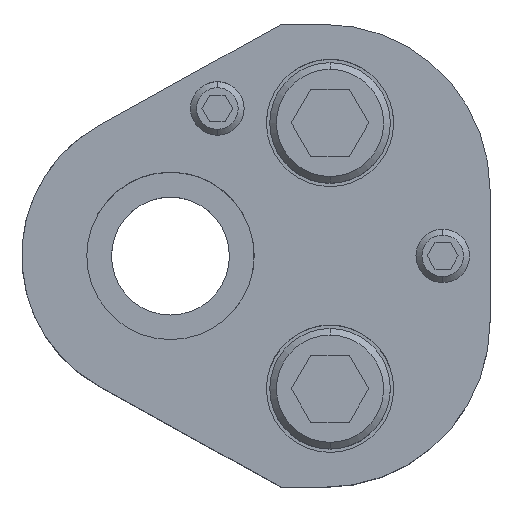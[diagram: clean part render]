
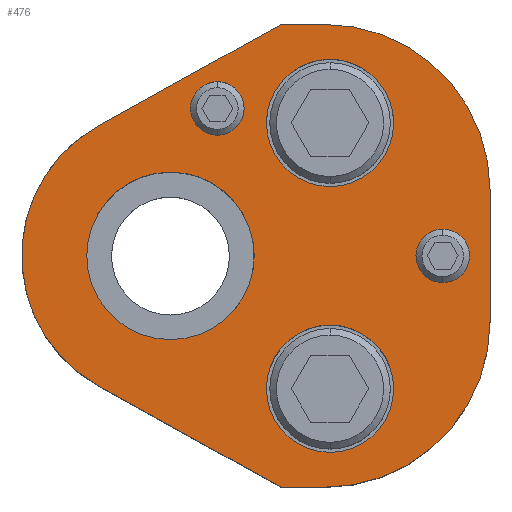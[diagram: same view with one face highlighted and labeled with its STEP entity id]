
A CAD part, top view. The second image highlights one B-rep face of the part: STEP entity #476.
In plain terms, the highlighted planar face has unit normal (0, 0, 1).
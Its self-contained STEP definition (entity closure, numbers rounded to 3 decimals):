
#213=FACE_BOUND('',#843,.T.);
#214=FACE_BOUND('',#844,.T.);
#215=FACE_BOUND('',#845,.T.);
#216=FACE_BOUND('',#846,.T.);
#217=FACE_BOUND('',#847,.T.);
#218=FACE_BOUND('',#848,.T.);
#300=CIRCLE('',#2773,24.7);
#302=CIRCLE('',#2777,24.7);
#304=CIRCLE('',#2782,4.);
#306=CIRCLE('',#2785,4.);
#308=CIRCLE('',#2788,4.);
#310=CIRCLE('',#2791,4.);
#320=CIRCLE('',#2806,22.2);
#321=CIRCLE('',#2807,9.5);
#322=CIRCLE('',#2808,9.5);
#323=CIRCLE('',#2809,9.5);
#324=CIRCLE('',#2810,9.5);
#325=CIRCLE('',#2811,12.5);
#326=CIRCLE('',#2812,12.5);
#476=ADVANCED_FACE('',(#213,#214,#215,#216,#217,#218),#592,.T.);
#592=PLANE('',#2813);
#843=EDGE_LOOP('',(#1250,#1251,#1252,#1253,#1254,#1255,#1256,#1257));
#844=EDGE_LOOP('',(#1258,#1259));
#845=EDGE_LOOP('',(#1260,#1261));
#846=EDGE_LOOP('',(#1262,#1263));
#847=EDGE_LOOP('',(#1264,#1265));
#848=EDGE_LOOP('',(#1266,#1267));
#1250=ORIENTED_EDGE('',*,*,#2069,.T.);
#1251=ORIENTED_EDGE('',*,*,#2027,.T.);
#1252=ORIENTED_EDGE('',*,*,#2031,.T.);
#1253=ORIENTED_EDGE('',*,*,#2034,.T.);
#1254=ORIENTED_EDGE('',*,*,#2037,.T.);
#1255=ORIENTED_EDGE('',*,*,#2040,.T.);
#1256=ORIENTED_EDGE('',*,*,#2043,.T.);
#1257=ORIENTED_EDGE('',*,*,#2070,.T.);
#1258=ORIENTED_EDGE('',*,*,#2071,.F.);
#1259=ORIENTED_EDGE('',*,*,#2072,.F.);
#1260=ORIENTED_EDGE('',*,*,#2073,.F.);
#1261=ORIENTED_EDGE('',*,*,#2074,.F.);
#1262=ORIENTED_EDGE('',*,*,#2055,.F.);
#1263=ORIENTED_EDGE('',*,*,#2051,.F.);
#1264=ORIENTED_EDGE('',*,*,#2049,.F.);
#1265=ORIENTED_EDGE('',*,*,#2045,.F.);
#1266=ORIENTED_EDGE('',*,*,#2075,.T.);
#1267=ORIENTED_EDGE('',*,*,#2076,.T.);
#1751=VERTEX_POINT('',#4099);
#1752=VERTEX_POINT('',#4101);
#1755=VERTEX_POINT('',#4108);
#1757=VERTEX_POINT('',#4114);
#1759=VERTEX_POINT('',#4120);
#1761=VERTEX_POINT('',#4126);
#1763=VERTEX_POINT('',#4132);
#1764=VERTEX_POINT('',#4137);
#1765=VERTEX_POINT('',#4138);
#1768=VERTEX_POINT('',#4149);
#1769=VERTEX_POINT('',#4150);
#1780=VERTEX_POINT('',#4185);
#1781=VERTEX_POINT('',#4188);
#1782=VERTEX_POINT('',#4189);
#1783=VERTEX_POINT('',#4192);
#1784=VERTEX_POINT('',#4193);
#1785=VERTEX_POINT('',#4196);
#1786=VERTEX_POINT('',#4197);
#2027=EDGE_CURVE('',#1752,#1751,#2336,.T.);
#2031=EDGE_CURVE('',#1751,#1755,#300,.T.);
#2034=EDGE_CURVE('',#1755,#1757,#2341,.T.);
#2037=EDGE_CURVE('',#1757,#1759,#302,.T.);
#2040=EDGE_CURVE('',#1759,#1761,#2345,.T.);
#2043=EDGE_CURVE('',#1761,#1763,#2348,.T.);
#2045=EDGE_CURVE('',#1764,#1765,#304,.T.);
#2049=EDGE_CURVE('',#1765,#1764,#306,.T.);
#2051=EDGE_CURVE('',#1768,#1769,#308,.T.);
#2055=EDGE_CURVE('',#1769,#1768,#310,.T.);
#2069=EDGE_CURVE('',#1780,#1752,#2358,.T.);
#2070=EDGE_CURVE('',#1763,#1780,#320,.T.);
#2071=EDGE_CURVE('',#1781,#1782,#321,.T.);
#2072=EDGE_CURVE('',#1782,#1781,#322,.T.);
#2073=EDGE_CURVE('',#1783,#1784,#323,.T.);
#2074=EDGE_CURVE('',#1784,#1783,#324,.T.);
#2075=EDGE_CURVE('',#1785,#1786,#325,.T.);
#2076=EDGE_CURVE('',#1786,#1785,#326,.T.);
#2336=LINE('',#4100,#2538);
#2341=LINE('',#4115,#2543);
#2345=LINE('',#4127,#2547);
#2348=LINE('',#4133,#2550);
#2358=LINE('',#4184,#2560);
#2538=VECTOR('',#3249,1.);
#2543=VECTOR('',#3262,1.);
#2547=VECTOR('',#3274,1.);
#2550=VECTOR('',#3279,1.);
#2560=VECTOR('',#3339,1.);
#2773=AXIS2_PLACEMENT_3D('',#4109,#3255,#3256);
#2777=AXIS2_PLACEMENT_3D('',#4121,#3267,#3268);
#2782=AXIS2_PLACEMENT_3D('',#4136,#3283,#3284);
#2785=AXIS2_PLACEMENT_3D('',#4145,#3291,#3292);
#2788=AXIS2_PLACEMENT_3D('',#4148,#3297,#3298);
#2791=AXIS2_PLACEMENT_3D('',#4157,#3305,#3306);
#2806=AXIS2_PLACEMENT_3D('',#4186,#3340,#3341);
#2807=AXIS2_PLACEMENT_3D('',#4187,#3342,#3343);
#2808=AXIS2_PLACEMENT_3D('',#4190,#3344,#3345);
#2809=AXIS2_PLACEMENT_3D('',#4191,#3346,#3347);
#2810=AXIS2_PLACEMENT_3D('',#4194,#3348,#3349);
#2811=AXIS2_PLACEMENT_3D('',#4195,#3350,#3351);
#2812=AXIS2_PLACEMENT_3D('',#4198,#3352,#3353);
#2813=AXIS2_PLACEMENT_3D('',#4199,#3354,#3355);
#3249=DIRECTION('',(1.,0.,0.));
#3255=DIRECTION('',(0.,0.,1.));
#3256=DIRECTION('',(-0.707,0.707,0.));
#3262=DIRECTION('',(0.,1.,0.));
#3267=DIRECTION('',(0.,0.,1.));
#3268=DIRECTION('',(-0.707,-0.707,0.));
#3274=DIRECTION('',(-1.,0.,0.));
#3279=DIRECTION('',(-0.875,-0.485,0.));
#3283=DIRECTION('',(0.,0.,1.));
#3284=DIRECTION('',(-1.,0.,0.));
#3291=DIRECTION('',(0.,0.,1.));
#3292=DIRECTION('',(1.,0.,0.));
#3297=DIRECTION('',(0.,0.,1.));
#3298=DIRECTION('',(-1.,0.,0.));
#3305=DIRECTION('',(0.,0.,1.));
#3306=DIRECTION('',(1.,0.,0.));
#3339=DIRECTION('',(0.875,-0.485,0.));
#3340=DIRECTION('',(0.,0.,1.));
#3341=DIRECTION('',(1.,0.,0.));
#3342=DIRECTION('',(0.,0.,1.));
#3343=DIRECTION('',(1.,0.,0.));
#3344=DIRECTION('',(0.,0.,1.));
#3345=DIRECTION('',(-1.,0.,0.));
#3346=DIRECTION('',(0.,0.,1.));
#3347=DIRECTION('',(1.,0.,0.));
#3348=DIRECTION('',(0.,0.,1.));
#3349=DIRECTION('',(-1.,0.,0.));
#3350=DIRECTION('',(0.,0.,-1.));
#3351=DIRECTION('',(-1.,0.,0.));
#3352=DIRECTION('',(0.,0.,-1.));
#3353=DIRECTION('',(1.,0.,0.));
#3354=DIRECTION('',(0.,0.,1.));
#3355=DIRECTION('',(-0.875,0.485,0.));
#4099=CARTESIAN_POINT('',(23.,-34.55,30.));
#4100=CARTESIAN_POINT('',(16.539,-34.55,30.));
#4101=CARTESIAN_POINT('',(16.539,-34.55,30.));
#4108=CARTESIAN_POINT('',(47.7,-9.85,30.));
#4109=CARTESIAN_POINT('',(23.,-9.85,30.));
#4114=CARTESIAN_POINT('',(47.7,9.85,30.));
#4115=CARTESIAN_POINT('',(47.7,9.85,30.));
#4120=CARTESIAN_POINT('',(23.,34.55,30.));
#4121=CARTESIAN_POINT('',(23.,9.85,30.));
#4126=CARTESIAN_POINT('',(16.539,34.55,30.));
#4127=CARTESIAN_POINT('',(16.539,34.55,30.));
#4132=CARTESIAN_POINT('',(-10.763,19.417,30.));
#4133=CARTESIAN_POINT('',(16.539,34.55,30.));
#4136=CARTESIAN_POINT('',(7.,22.,30.));
#4137=CARTESIAN_POINT('',(7.,18.,30.));
#4138=CARTESIAN_POINT('',(7.,26.,30.));
#4145=CARTESIAN_POINT('',(7.,22.,30.));
#4148=CARTESIAN_POINT('',(40.64,0.,30.));
#4149=CARTESIAN_POINT('',(40.64,-4.,30.));
#4150=CARTESIAN_POINT('',(40.64,4.,30.));
#4157=CARTESIAN_POINT('',(40.64,0.,30.));
#4184=CARTESIAN_POINT('',(16.539,-34.55,30.));
#4185=CARTESIAN_POINT('',(-10.763,-19.417,30.));
#4186=CARTESIAN_POINT('',(0.,0.,30.));
#4187=CARTESIAN_POINT('',(23.82,19.84,30.));
#4188=CARTESIAN_POINT('',(23.82,29.34,30.));
#4189=CARTESIAN_POINT('',(23.82,10.34,30.));
#4190=CARTESIAN_POINT('',(23.82,19.84,30.));
#4191=CARTESIAN_POINT('',(23.82,-19.84,30.));
#4192=CARTESIAN_POINT('',(23.82,-10.34,30.));
#4193=CARTESIAN_POINT('',(23.82,-29.34,30.));
#4194=CARTESIAN_POINT('',(23.82,-19.84,30.));
#4195=CARTESIAN_POINT('',(0.,0.,30.));
#4196=CARTESIAN_POINT('',(0.,12.5,30.));
#4197=CARTESIAN_POINT('',(0.,-12.5,30.));
#4198=CARTESIAN_POINT('',(0.,0.,30.));
#4199=CARTESIAN_POINT('',(-10.763,-19.417,30.));
